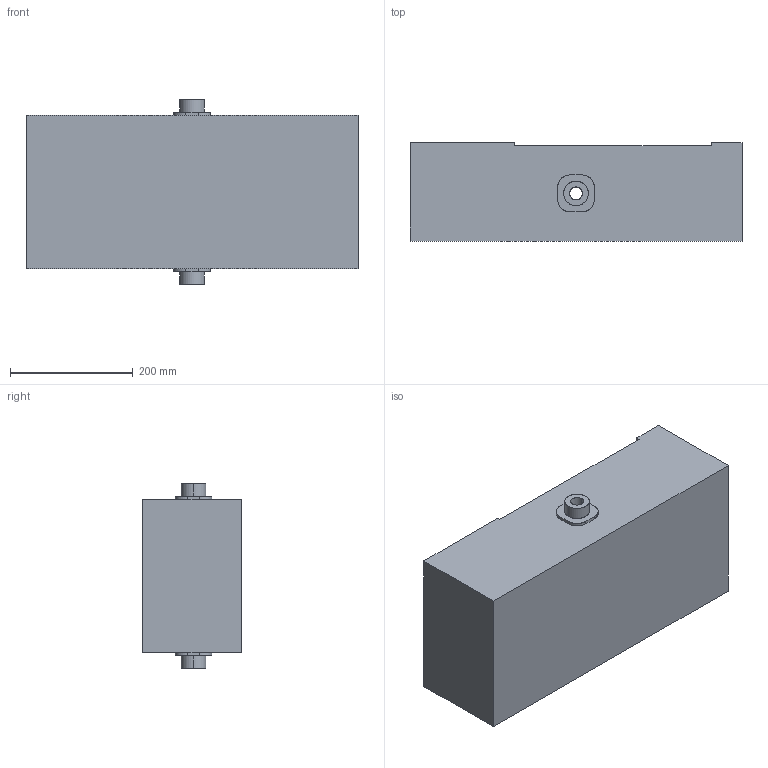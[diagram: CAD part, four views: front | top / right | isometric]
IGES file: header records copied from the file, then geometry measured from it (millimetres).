
Start section: SolidWorks IGES file using analytic representation for surfaces
Global section: file name: C:\Users\kaziw\OneDrive\Desktop\FEM PROJECT\CAD FILES\CHASSIS\Chassis V3.IGS; native system: SolidWorks 2023; preprocessor: SolidWorks 2023; author: kaziw; date: 241117.222943; units: millimetre
Bounding box: 540 x 160 x 300 mm (x, y, z)
Surface area: 872519.3 mm2 (no closed solid volume)
Topology: 0 solids, 0 shells, 69 faces, 1224 edges, 1224 vertices
Faces by surface type: bspline 41, revolution 28
